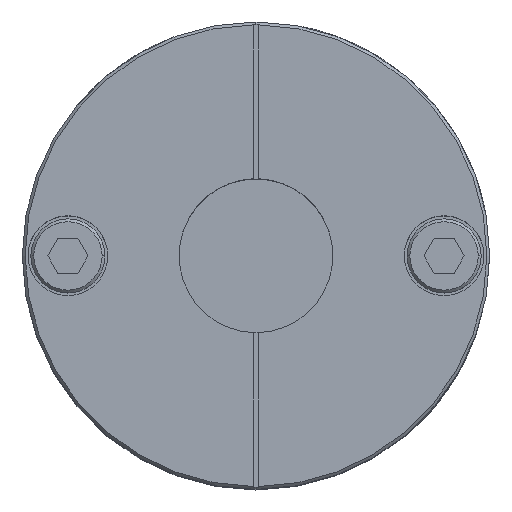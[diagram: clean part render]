
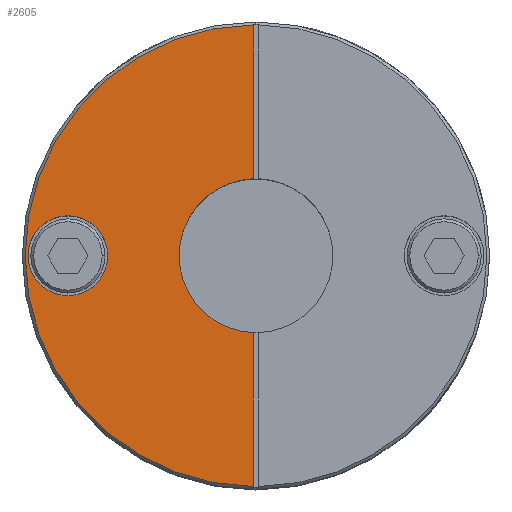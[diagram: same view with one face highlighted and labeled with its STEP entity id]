
A CAD part, top view. The second image highlights one B-rep face of the part: STEP entity #2605.
In plain terms, the highlighted planar face has unit normal (0, 0, 1).
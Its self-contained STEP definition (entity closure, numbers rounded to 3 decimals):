
#94 = VERTEX_POINT ( 'NONE', #3195 ) ;
#95 = VERTEX_POINT ( 'NONE', #3194 ) ;
#97 = EDGE_CURVE ( 'NONE', #95, #94, #3192, .T. ) ;
#185 = VERTEX_POINT ( 'NONE', #3409 ) ;
#199 = VERTEX_POINT ( 'NONE', #3385 ) ;
#201 = EDGE_CURVE ( 'NONE', #199, #185, #3383, .T. ) ;
#705 = CARTESIAN_POINT ( 'NONE',  ( 40.498, -0.375, 30. ) ) ;
#706 = CARTESIAN_POINT ( 'NONE',  ( -40.498, -0.375, 30. ) ) ;
#707 = DIRECTION ( 'NONE',  ( 1., 0., 0. ) ) ;
#708 = VECTOR ( 'NONE', #707, 1000. ) ;
#709 = CARTESIAN_POINT ( 'NONE',  ( -40.6, -0.375, 30. ) ) ;
#710 = LINE ( 'NONE', #709, #708 ) ;
#711 = DIRECTION ( 'NONE',  ( 1., 0., 0. ) ) ;
#712 = DIRECTION ( 'NONE',  ( 0., 0., 1. ) ) ;
#713 = CARTESIAN_POINT ( 'NONE',  ( 0., -33., 30. ) ) ;
#714 = AXIS2_PLACEMENT_3D ( 'NONE', #713, #712, #711 ) ;
#715 = CIRCLE ( 'NONE', #714, 7. ) ;
#716 = DIRECTION ( 'NONE',  ( 1., 0., 0. ) ) ;
#717 = DIRECTION ( 'NONE',  ( 0., 0., 1. ) ) ;
#718 = CARTESIAN_POINT ( 'NONE',  ( 0., 0., 30. ) ) ;
#719 = AXIS2_PLACEMENT_3D ( 'NONE', #718, #717, #716 ) ;
#720 = PLANE ( 'NONE',  #719 ) ;
#721 = FACE_OUTER_BOUND ( 'NONE', #2610, .T. ) ;
#722 = FACE_BOUND ( 'NONE', #2606, .T. ) ;
#878 = DIRECTION ( 'NONE',  ( 1., 0., 0. ) ) ;
#879 = VECTOR ( 'NONE', #878, 1000. ) ;
#880 = CARTESIAN_POINT ( 'NONE',  ( -40.6, -0.375, 30. ) ) ;
#881 = LINE ( 'NONE', #880, #879 ) ;
#882 = DIRECTION ( 'NONE',  ( 1., 0., 0. ) ) ;
#883 = DIRECTION ( 'NONE',  ( 0., 0., 1. ) ) ;
#884 = CARTESIAN_POINT ( 'NONE',  ( 0., 0., 30. ) ) ;
#885 = AXIS2_PLACEMENT_3D ( 'NONE', #884, #883, #882 ) ;
#886 = CIRCLE ( 'NONE', #885, 40.5 ) ;
#2605 = ADVANCED_FACE ( 'NONE', ( #722, #721 ), #720, .T. ) ;
#2606 = EDGE_LOOP ( 'NONE', ( #2607, #2609 ) ) ;
#2607 = ORIENTED_EDGE ( 'NONE', *, *, #2608, .F. ) ;
#2608 = EDGE_CURVE ( 'NONE', #185, #199, #715, .T. ) ;
#2609 = ORIENTED_EDGE ( 'NONE', *, *, #201, .F. ) ;
#2610 = EDGE_LOOP ( 'NONE', ( #2611, #2668, #2670, #2672 ) ) ;
#2611 = ORIENTED_EDGE ( 'NONE', *, *, #2612, .F. ) ;
#2612 = EDGE_CURVE ( 'NONE', #2613, #95, #710, .T. ) ;
#2613 = VERTEX_POINT ( 'NONE', #706 ) ;
#2614 = VERTEX_POINT ( 'NONE', #705 ) ;
#2668 = ORIENTED_EDGE ( 'NONE', *, *, #2669, .T. ) ;
#2669 = EDGE_CURVE ( 'NONE', #2613, #2614, #886, .T. ) ;
#2670 = ORIENTED_EDGE ( 'NONE', *, *, #2671, .F. ) ;
#2671 = EDGE_CURVE ( 'NONE', #94, #2614, #881, .T. ) ;
#2672 = ORIENTED_EDGE ( 'NONE', *, *, #97, .F. ) ;
#3188 = DIRECTION ( 'NONE',  ( 1., 0., 0. ) ) ;
#3189 = DIRECTION ( 'NONE',  ( 0., 0., 1. ) ) ;
#3190 = CARTESIAN_POINT ( 'NONE',  ( 0., 0., 30. ) ) ;
#3191 = AXIS2_PLACEMENT_3D ( 'NONE', #3190, #3189, #3188 ) ;
#3192 = CIRCLE ( 'NONE', #3191, 13.5 ) ;
#3194 = CARTESIAN_POINT ( 'NONE',  ( -13.495, -0.375, 30. ) ) ;
#3195 = CARTESIAN_POINT ( 'NONE',  ( 13.495, -0.375, 30. ) ) ;
#3379 = DIRECTION ( 'NONE',  ( 1., 0., 0. ) ) ;
#3380 = DIRECTION ( 'NONE',  ( 0., 0., 1. ) ) ;
#3381 = CARTESIAN_POINT ( 'NONE',  ( 0., -33., 30. ) ) ;
#3382 = AXIS2_PLACEMENT_3D ( 'NONE', #3381, #3380, #3379 ) ;
#3383 = CIRCLE ( 'NONE', #3382, 7. ) ;
#3385 = CARTESIAN_POINT ( 'NONE',  ( -7., -33., 30. ) ) ;
#3409 = CARTESIAN_POINT ( 'NONE',  ( 7., -33., 30. ) ) ;
